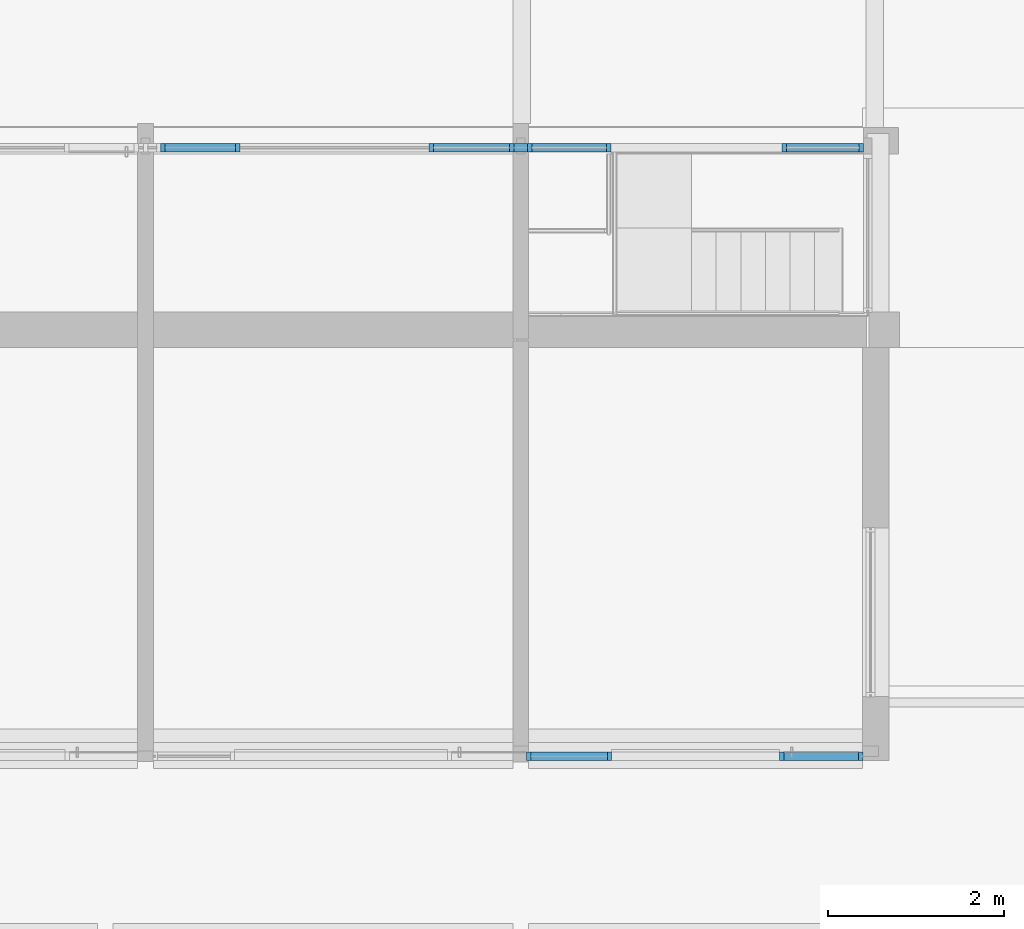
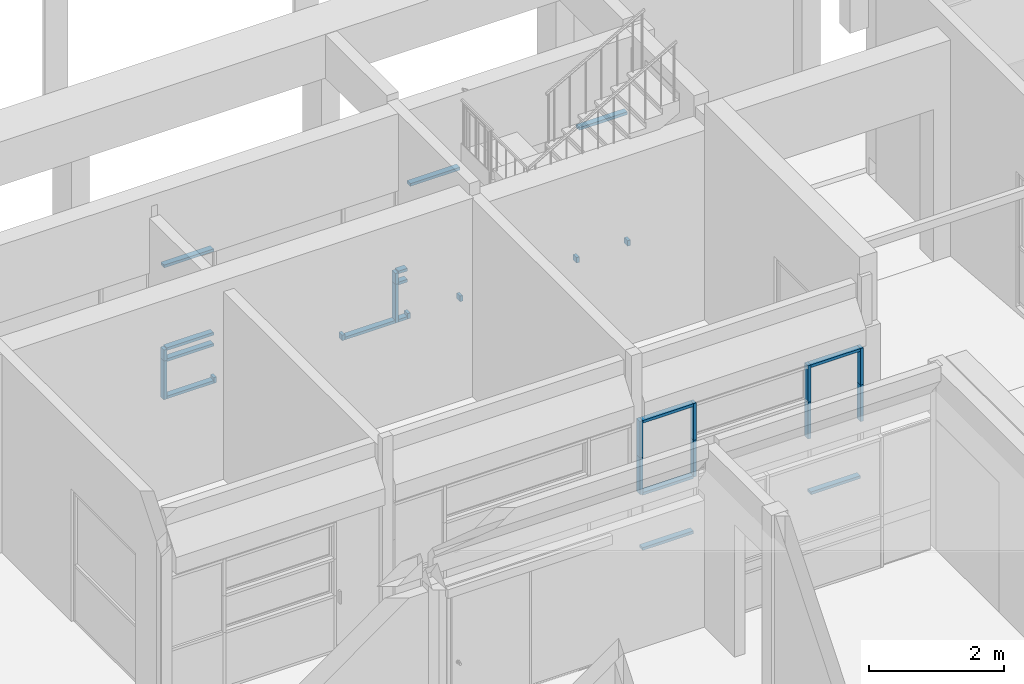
# One storey, part 21 of 117: 33 members, 3 elements without a shape of their own.
"""IFC4 building model written with IfcOpenShell, lengths in metres."""

from ifc_helpers import new_model, entity, si_unit, converted_unit, derived_unit, direction, frame, origin, place, context, subcontext, project, spatial, indexed_curve, outline, extrude, source, transform, mapped, material, type_object, type_shapes, element, aggregate, save


model = new_model("IFC4")

# Units and contexts
model_context = context("Model", 3, precision=1e-05, world=origin(), true_north=direction((6.123031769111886e-17, 1.0)))
body_context = subcontext(model_context, "Body", "Model", "MODEL_VIEW")
ifc_project = project(units=[si_unit("LENGTHUNIT", "METRE"), si_unit("AREAUNIT", "SQUARE_METRE"), si_unit("VOLUMEUNIT", "CUBIC_METRE"), converted_unit("PLANEANGLEUNIT", "DEGREE", entity("IfcRatioMeasure", 0.017453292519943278), si_unit("PLANEANGLEUNIT", "RADIAN"), dimensions=[0, 0, 0, 0, 0, 0, 0]), si_unit("MASSUNIT", "GRAM", prefix="KILO"), derived_unit("MASSDENSITYUNIT", [(si_unit("MASSUNIT", "GRAM", prefix="KILO"), 1), (si_unit("LENGTHUNIT", "METRE"), -3)]), derived_unit("MOMENTOFINERTIAUNIT", [(si_unit("LENGTHUNIT", "METRE"), 4)]), si_unit("TIMEUNIT", "SECOND"), si_unit("FREQUENCYUNIT", "HERTZ"), si_unit("THERMODYNAMICTEMPERATUREUNIT", "DEGREE_CELSIUS"), derived_unit("THERMALTRANSMITTANCEUNIT", [(si_unit("MASSUNIT", "GRAM", prefix="KILO"), 1), (si_unit("THERMODYNAMICTEMPERATUREUNIT", "KELVIN"), -1), (si_unit("TIMEUNIT", "SECOND"), -3)]), derived_unit("VOLUMETRICFLOWRATEUNIT", [(si_unit("LENGTHUNIT", "METRE"), 3), (si_unit("TIMEUNIT", "SECOND"), -1)]), derived_unit("MASSFLOWRATEUNIT", [(si_unit("MASSUNIT", "GRAM", prefix="KILO"), 1), (si_unit("TIMEUNIT", "SECOND"), -1)]), derived_unit("ROTATIONALFREQUENCYUNIT", [(si_unit("TIMEUNIT", "SECOND"), -1)]), si_unit("ELECTRICCURRENTUNIT", "AMPERE"), si_unit("ELECTRICVOLTAGEUNIT", "VOLT"), si_unit("POWERUNIT", "WATT"), si_unit("FORCEUNIT", "NEWTON", prefix="KILO"), si_unit("ILLUMINANCEUNIT", "LUX"), si_unit("LUMINOUSFLUXUNIT", "LUMEN"), si_unit("LUMINOUSINTENSITYUNIT", "CANDELA"), derived_unit("USERDEFINED", [(si_unit("MASSUNIT", "GRAM", prefix="KILO"), -1), (si_unit("LENGTHUNIT", "METRE"), -2), (si_unit("TIMEUNIT", "SECOND"), 3), (si_unit("LUMINOUSFLUXUNIT", "LUMEN"), 1)]), derived_unit("SOUNDPOWERUNIT", [(si_unit("MASSUNIT", "GRAM", prefix="KILO"), 1), (si_unit("LENGTHUNIT", "METRE"), 2), (si_unit("TIMEUNIT", "SECOND"), -3)]), derived_unit("SOUNDPRESSUREUNIT", [(si_unit("MASSUNIT", "GRAM", prefix="KILO"), 1), (si_unit("LENGTHUNIT", "METRE"), -1), (si_unit("TIMEUNIT", "SECOND"), -2)]), derived_unit("LINEARVELOCITYUNIT", [(si_unit("LENGTHUNIT", "METRE"), 1), (si_unit("TIMEUNIT", "SECOND"), -1)]), si_unit("PRESSUREUNIT", "PASCAL"), derived_unit("USERDEFINED", [(si_unit("LENGTHUNIT", "METRE"), -2), (si_unit("MASSUNIT", "GRAM", prefix="KILO"), 1), (si_unit("TIMEUNIT", "SECOND"), -2)]), derived_unit("LINEARFORCEUNIT", [(si_unit("MASSUNIT", "GRAM", prefix="KILO"), 1), (si_unit("LENGTHUNIT", "METRE"), 1), (si_unit("TIMEUNIT", "SECOND"), -2), (si_unit("LENGTHUNIT", "METRE"), -1)]), derived_unit("PLANARFORCEUNIT", [(si_unit("MASSUNIT", "GRAM", prefix="KILO"), 1), (si_unit("LENGTHUNIT", "METRE"), 1), (si_unit("TIMEUNIT", "SECOND"), -2), (si_unit("LENGTHUNIT", "METRE"), -2)])], contexts=[model_context])

# Site, building, storey
site_placement = place(None, origin())
site = spatial("IfcSite", under=ifc_project, at=site_placement, Name="Superficie", CompositionType="ELEMENT")
building_placement = place(site_placement, origin())
building = spatial("IfcBuilding", under=site, at=building_placement, CompositionType="ELEMENT")
storey_placement = place(building_placement, origin())
storey = spatial("IfcBuildingStorey", under=building, at=storey_placement, Name="Nivel 0", CompositionType="ELEMENT", Elevation=0.0)

# Curtain wall, members
curtain_wall_type = type_object("IfcCurtainWallType", Name="Muro cortina:Muro cortina - simple", PredefinedType="NOTDEFINED")
curtain_wall_1_placement = place(storey_placement, origin())
curtain_wall_1 = element("IfcCurtainWall", 1, at=curtain_wall_1_placement, inside=storey, type_object=curtain_wall_type, Name="Muro cortina:Muro cortina - simple", ObjectType="Muro cortina:Muro cortina - simple", PredefinedType="NOTDEFINED")
ifc_material = material(Name="<Unnamed>")
member_type_1 = type_object("IfcMemberType", Name="Montante rectangular:Montante rectangular - 5 x 10 cm", PredefinedType="MULLION", material=ifc_material)
shared_shape_1 = source(origin(), body_context, "Body", "SweptSolid", [
    extrude(outline(indexed_curve([(-0.05, -0.025), (0.05, -0.025), (0.05, 0.025), (-0.05, 0.025), (-0.05, -0.025)], self_intersect=False)), frame((0.0, 0.0, -0.8749999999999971), z_axis=(0.0, 0.0, 1.0), x_axis=(0.0, -1.0, 0.0)), (0.0, 0.0, 1.0), 0.874999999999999),
])
type_shapes(member_type_1, [shared_shape_1])
member_1_placement = place(curtain_wall_1_placement, frame((-6.3586665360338, 5.715829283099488, 1.0199999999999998), z_axis=(1.0, 0.0, 0.0), x_axis=(0.0, 0.0, 1.0)))
member_1 = element("IfcMember", 2, at=member_1_placement, type_object=member_type_1, material=ifc_material, Name="Montante rectangular:Montante rectangular - 5 x 10 cm", ObjectType="Montante rectangular:Montante rectangular - 5 x 10 cm", PredefinedType="MULLION", context=body_context, shape_type="MappedRepresentation", body=[
    mapped(shared_shape_1, transform((0.0, 0.0, 0.0), scale=1.0)),
])
member_2_placement = place(curtain_wall_1_placement, frame((-6.3586665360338, 5.715829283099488, 0.019999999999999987), z_axis=(1.0, 0.0, 0.0), x_axis=(0.0, 0.0, 1.0)))
member_2 = element("IfcMember", 3, at=member_2_placement, type_object=member_type_1, material=ifc_material, Name="Montante rectangular:Montante rectangular - 5 x 10 cm", ObjectType="Montante rectangular:Montante rectangular - 5 x 10 cm", PredefinedType="MULLION", context=body_context, shape_type="MappedRepresentation", body=[
    mapped(shared_shape_1, transform((0.0, 0.0, 0.0), scale=1.0)),
])
member_type_2 = type_object("IfcMemberType", Name="Montante rectangular:Montante rectangular - 5 x 10 cm", PredefinedType="MULLION", material=ifc_material)
shared_shape_2 = source(origin(), body_context, "Body", "SweptSolid", [
    extrude(outline(indexed_curve([(-0.05, -0.025), (0.05, -0.025), (0.05, 0.025), (-0.05, 0.025), (-0.05, -0.025)], self_intersect=False)), frame((-0.025, 0.0, -0.8749999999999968), z_axis=(0.0, 0.0, 1.0), x_axis=(0.0, -1.0, 0.0)), (0.0, 0.0, 1.0), 0.8749999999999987),
])
type_shapes(member_type_2, [shared_shape_2])
member_3_placement = place(curtain_wall_1_placement, frame((-6.3586665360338, 5.715829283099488, 2.35), z_axis=(1.0, 0.0, 0.0), x_axis=(0.0, 0.0, 1.0)))
member_3 = element("IfcMember", 4, at=member_3_placement, type_object=member_type_2, material=ifc_material, Name="Montante rectangular:Montante rectangular - 5 x 10 cm", ObjectType="Montante rectangular:Montante rectangular - 5 x 10 cm", PredefinedType="MULLION", context=body_context, shape_type="MappedRepresentation", body=[
    mapped(shared_shape_2, transform((0.0, 0.0, 0.0), scale=1.0)),
])
member_type_3 = type_object("IfcMemberType", Name="Montante rectangular:Montante rectangular - 5 x 10 cm", PredefinedType="MULLION", material=ifc_material)
shared_shape_3 = source(origin(), body_context, "Body", "SweptSolid", [
    extrude(outline(indexed_curve([(-0.05, -0.025), (0.05, -0.025), (0.05, 0.025), (-0.05, 0.025), (-0.05, -0.025)], self_intersect=False)), frame((0.0, 0.0, -0.6649999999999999), z_axis=(0.0, 0.0, 1.0), x_axis=(0.0, -1.0, 0.0)), (0.0, 0.0, 1.0), 0.6649999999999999),
])
type_shapes(member_type_3, [shared_shape_3])
member_4_placement = place(curtain_wall_1_placement, frame((-4.373200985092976, 5.715829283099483, 1.02), z_axis=(0.0, 0.0, -1.0), x_axis=(1.0, 0.0, 0.0)))
member_4 = element("IfcMember", 5, at=member_4_placement, type_object=member_type_3, material=ifc_material, Name="Montante rectangular:Montante rectangular - 5 x 10 cm", ObjectType="Montante rectangular:Montante rectangular - 5 x 10 cm", PredefinedType="MULLION", context=body_context, shape_type="MappedRepresentation", body=[
    mapped(shared_shape_3, transform((0.0, 0.0, 0.0), scale=1.0)),
])
member_5_placement = place(curtain_wall_1_placement, frame((-6.3336665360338, 5.715829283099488, 1.0199999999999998), z_axis=(0.0, 0.0, -1.0), x_axis=(1.0, 0.0, 0.0)))
member_5 = element("IfcMember", 6, at=member_5_placement, type_object=member_type_3, material=ifc_material, Name="Montante rectangular:Montante rectangular - 5 x 10 cm", ObjectType="Montante rectangular:Montante rectangular - 5 x 10 cm", PredefinedType="MULLION", context=body_context, shape_type="MappedRepresentation", body=[
    mapped(shared_shape_3, transform((0.0, 0.0, 0.0), scale=1.0)),
])
member_type_4 = type_object("IfcMemberType", Name="Montante rectangular:Montante rectangular - 5 x 10 cm", PredefinedType="MULLION", material=ifc_material)
shared_shape_4 = source(origin(), body_context, "Body", "SweptSolid", [
    extrude(outline(indexed_curve([(-0.05, -0.025), (0.05, -0.025), (0.05, 0.025), (-0.05, 0.025), (-0.05, -0.025)], self_intersect=False)), frame((0.0, 0.0, -0.6649999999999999), z_axis=(0.0, 0.0, 1.0), x_axis=(0.0, -1.0, 0.0)), (0.0, 0.0, 1.0), 0.6649999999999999),
])
type_shapes(member_type_4, [shared_shape_4])
member_6_placement = place(curtain_wall_1_placement, frame((-4.373200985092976, 5.715829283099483, 1.685), z_axis=(0.0, 0.0, -1.0), x_axis=(1.0, 0.0, 0.0)))
member_6 = element("IfcMember", 7, at=member_6_placement, type_object=member_type_4, material=ifc_material, Name="Montante rectangular:Montante rectangular - 5 x 10 cm", ObjectType="Montante rectangular:Montante rectangular - 5 x 10 cm", PredefinedType="MULLION", context=body_context, shape_type="MappedRepresentation", body=[
    mapped(shared_shape_4, transform((0.0, 0.0, 0.0), scale=1.0)),
])
member_7_placement = place(curtain_wall_1_placement, frame((-6.3336665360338, 5.715829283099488, 1.685), z_axis=(0.0, 0.0, -1.0), x_axis=(1.0, 0.0, 0.0)))
member_7 = element("IfcMember", 8, at=member_7_placement, type_object=member_type_4, material=ifc_material, Name="Montante rectangular:Montante rectangular - 5 x 10 cm", ObjectType="Montante rectangular:Montante rectangular - 5 x 10 cm", PredefinedType="MULLION", context=body_context, shape_type="MappedRepresentation", body=[
    mapped(shared_shape_4, transform((0.0, 0.0, 0.0), scale=1.0)),
])
member_type_5 = type_object("IfcMemberType", Name="Montante rectangular:Montante rectangular - 5 x 10 cm", PredefinedType="MULLION", material=ifc_material)
shared_shape_5 = source(origin(), body_context, "Body", "SweptSolid", [
    extrude(outline(indexed_curve([(-0.05, -0.025), (0.05, -0.025), (0.05, 0.025), (-0.05, 0.025), (-0.05, -0.025)], self_intersect=False)), frame((-0.025, 0.0, -0.8500000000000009), z_axis=(0.0, 0.0, 1.0), x_axis=(0.0, -1.0, 0.0)), (0.0, 0.0, 1.0), 0.849999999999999),
])
type_shapes(member_type_5, [shared_shape_5])
member_8_placement = place(curtain_wall_1_placement, frame((-3.4982009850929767, 5.715829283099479, 2.35), z_axis=(1.0, 0.0, 0.0), x_axis=(0.0, 0.0, 1.0)))
member_8 = element("IfcMember", 9, at=member_8_placement, type_object=member_type_5, material=ifc_material, Name="Montante rectangular:Montante rectangular - 5 x 10 cm", ObjectType="Montante rectangular:Montante rectangular - 5 x 10 cm", PredefinedType="MULLION", context=body_context, shape_type="MappedRepresentation", body=[
    mapped(shared_shape_5, transform((0.0, 0.0, 0.0), scale=1.0)),
])

curtain_wall_2_placement = place(storey_placement, origin())
curtain_wall_2 = element("IfcCurtainWall", 10, at=curtain_wall_2_placement, inside=storey, type_object=curtain_wall_type, Name="Muro cortina:Muro cortina - simple", ObjectType="Muro cortina:Muro cortina - simple", PredefinedType="NOTDEFINED")
member_9_placement = place(curtain_wall_2_placement, frame((-11.437388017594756, 12.640829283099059, 2.44), z_axis=(-1.0, 0.0, 0.0), x_axis=(0.0, 0.0, 1.0)))
member_9 = element("IfcMember", 11, at=member_9_placement, type_object=member_type_5, material=ifc_material, Name="Montante rectangular:Montante rectangular - 5 x 10 cm", ObjectType="Montante rectangular:Montante rectangular - 5 x 10 cm", PredefinedType="MULLION", context=body_context, shape_type="MappedRepresentation", body=[
    mapped(shared_shape_5, transform((0.0, 0.0, 0.0), scale=1.0)),
])
member_10_placement = place(curtain_wall_2_placement, frame((-7.217388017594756, 12.640829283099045, 2.44), z_axis=(-1.0, 0.0, 0.0), x_axis=(0.0, 0.0, 1.0)))
member_10 = element("IfcMember", 12, at=member_10_placement, type_object=member_type_5, material=ifc_material, Name="Montante rectangular:Montante rectangular - 5 x 10 cm", ObjectType="Montante rectangular:Montante rectangular - 5 x 10 cm", PredefinedType="MULLION", context=body_context, shape_type="MappedRepresentation", body=[
    mapped(shared_shape_5, transform((0.0, 0.0, 0.0), scale=1.0)),
])

# Member
member_type_6 = type_object("IfcMemberType", Name="Montante rectangular:Montante rectangular - 5 x 10 cm", PredefinedType="MULLION", material=ifc_material)
shared_shape_6 = source(origin(), body_context, "Body", "SweptSolid", [
    extrude(outline(indexed_curve([(-0.05, -0.025), (0.05, -0.025), (0.05, 0.025), (-0.05, 0.025), (-0.05, -0.025)], self_intersect=False)), frame((0.0, 0.0, -0.8500000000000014), z_axis=(0.0, 0.0, 1.0), x_axis=(0.0, -1.0, 0.0)), (0.0, 0.0, 1.0), 0.849999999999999),
])
type_shapes(member_type_6, [shared_shape_6])
member_11_placement = place(curtain_wall_1_placement, frame((-3.4982009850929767, 5.715829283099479, 0.019999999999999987), z_axis=(1.0, 0.0, 0.0), x_axis=(0.0, 0.0, 1.0)))
member_11 = element("IfcMember", 13, at=member_11_placement, type_object=member_type_6, material=ifc_material, Name="Montante rectangular:Montante rectangular - 5 x 10 cm", ObjectType="Montante rectangular:Montante rectangular - 5 x 10 cm", PredefinedType="MULLION", context=body_context, shape_type="MappedRepresentation", body=[
    mapped(shared_shape_6, transform((0.0, 0.0, 0.0), scale=1.0)),
])

# Curtain wall, member
curtain_wall_3_placement = place(storey_placement, origin())
curtain_wall_3 = element("IfcCurtainWall", 14, at=curtain_wall_3_placement, inside=storey, type_object=curtain_wall_type, Name="Muro cortina:Muro cortina - simple", ObjectType="Muro cortina:Muro cortina - simple", PredefinedType="NOTDEFINED")
member_type_7 = type_object("IfcMemberType", Name="Montante rectangular:Montante rectangular - 5 x 10 cm", PredefinedType="MULLION", material=ifc_material)
shared_shape_7 = source(origin(), body_context, "Body", "SweptSolid", [
    extrude(outline(indexed_curve([(-0.05, -0.025), (0.05, -0.025), (0.05, 0.025), (-0.05, 0.025), (-0.05, -0.025)], self_intersect=False)), frame((0.0, 0.0, -0.6649999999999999), z_axis=(0.0, 0.0, 1.0), x_axis=(0.0, -1.0, 0.0)), (0.0, 0.0, 1.0), 0.6649999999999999),
])
type_shapes(member_type_7, [shared_shape_7])
member_12_placement = place(curtain_wall_3_placement, frame((-7.2536665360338, 5.715829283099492, 1.0200000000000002), z_axis=(0.0, 0.0, -1.0), x_axis=(1.0, 0.0, 0.0)))
member_12 = element("IfcMember", 15, at=member_12_placement, type_object=member_type_7, material=ifc_material, Name="Montante rectangular:Montante rectangular - 5 x 10 cm", ObjectType="Montante rectangular:Montante rectangular - 5 x 10 cm", PredefinedType="MULLION", context=body_context, shape_type="MappedRepresentation", body=[
    mapped(shared_shape_7, transform((0.0, 0.0, 0.0), scale=1.0)),
])

# Member
member_13_placement = place(curtain_wall_1_placement, frame((-3.473200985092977, 5.715829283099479, 1.0200000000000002), z_axis=(0.0, 0.0, -1.0), x_axis=(1.0, 0.0, 0.0)))
member_13 = element("IfcMember", 16, at=member_13_placement, type_object=member_type_7, material=ifc_material, Name="Montante rectangular:Montante rectangular - 5 x 10 cm", ObjectType="Montante rectangular:Montante rectangular - 5 x 10 cm", PredefinedType="MULLION", context=body_context, shape_type="MappedRepresentation", body=[
    mapped(shared_shape_7, transform((0.0, 0.0, 0.0), scale=1.0)),
])

member_type_8 = type_object("IfcMemberType", Name="Montante rectangular:Montante rectangular - 5 x 10 cm", PredefinedType="MULLION", material=ifc_material)
shared_shape_8 = source(origin(), body_context, "Body", "SweptSolid", [
    extrude(outline(indexed_curve([(-0.05, -0.025), (0.05, -0.025), (0.05, 0.025), (-0.05, 0.025), (-0.05, -0.025)], self_intersect=False)), frame((0.0, 0.0, -0.6649999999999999), z_axis=(0.0, 0.0, 1.0), x_axis=(0.0, -1.0, 0.0)), (0.0, 0.0, 1.0), 0.6649999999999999),
])
type_shapes(member_type_8, [shared_shape_8])
member_14_placement = place(curtain_wall_3_placement, frame((-7.2536665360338, 5.715829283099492, 1.685), z_axis=(0.0, 0.0, -1.0), x_axis=(1.0, 0.0, 0.0)))
member_14 = element("IfcMember", 17, at=member_14_placement, type_object=member_type_8, material=ifc_material, Name="Montante rectangular:Montante rectangular - 5 x 10 cm", ObjectType="Montante rectangular:Montante rectangular - 5 x 10 cm", PredefinedType="MULLION", context=body_context, shape_type="MappedRepresentation", body=[
    mapped(shared_shape_8, transform((0.0, 0.0, 0.0), scale=1.0)),
])

aggregate(curtain_wall_3, [member_12, member_14])

member_15_placement = place(curtain_wall_1_placement, frame((-3.473200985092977, 5.715829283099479, 1.685), z_axis=(0.0, 0.0, -1.0), x_axis=(1.0, 0.0, 0.0)))
member_15 = element("IfcMember", 18, at=member_15_placement, type_object=member_type_8, material=ifc_material, Name="Montante rectangular:Montante rectangular - 5 x 10 cm", ObjectType="Montante rectangular:Montante rectangular - 5 x 10 cm", PredefinedType="MULLION", context=body_context, shape_type="MappedRepresentation", body=[
    mapped(shared_shape_8, transform((0.0, 0.0, 0.0), scale=1.0)),
])

aggregate(curtain_wall_1, [member_8, member_11, member_13, member_4, member_15, member_6, member_1, member_2, member_3, member_7, member_5])

member_type_9 = type_object("IfcMemberType", Name="Montante rectangular:Montante rectangular - 5 x 10 cm", PredefinedType="MULLION", material=ifc_material)
shared_shape_9 = source(origin(), body_context, "Body", "SweptSolid", [
    extrude(outline(indexed_curve([(-0.05, -0.025), (0.05, -0.025), (0.05, 0.025), (-0.05, 0.025), (-0.05, -0.025)], self_intersect=False)), frame((-0.025, 0.0, -0.8249999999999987), z_axis=(0.0, 0.0, 1.0), x_axis=(0.0, -1.0, 0.0)), (0.0, 0.0, 1.0), 0.824999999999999),
])
type_shapes(member_type_9, [shared_shape_9])
member_16_placement = place(curtain_wall_2_placement, frame((-4.3182009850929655, 12.640829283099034, 2.44), z_axis=(-1.0, 0.0, 0.0), x_axis=(0.0, 0.0, 1.0)))
member_16 = element("IfcMember", 19, at=member_16_placement, type_object=member_type_9, material=ifc_material, Name="Montante rectangular:Montante rectangular - 5 x 10 cm", ObjectType="Montante rectangular:Montante rectangular - 5 x 10 cm", PredefinedType="MULLION", context=body_context, shape_type="MappedRepresentation", body=[
    mapped(shared_shape_9, transform((0.0, 0.0, 0.0), scale=1.0)),
])

member_type_10 = type_object("IfcMemberType", Name="Montante rectangular:Montante rectangular - 5 x 10 cm", PredefinedType="MULLION", material=ifc_material)
shared_shape_10 = source(origin(), body_context, "Body", "SweptSolid", [
    extrude(outline(indexed_curve([(-0.05, -0.025), (0.05, -0.025), (0.05, 0.025), (-0.05, 0.025), (-0.05, -0.025)], self_intersect=False)), frame((0.0, 0.0, -0.19999999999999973), z_axis=(0.0, 0.0, 1.0), x_axis=(0.0, -1.0, 0.0)), (0.0, 0.0, 1.0), 0.19999999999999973),
])
type_shapes(member_type_10, [shared_shape_10])
member_17_placement = place(curtain_wall_2_placement, frame((-7.447388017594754, 12.640829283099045, 0.7), z_axis=(0.0, 0.0, -1.0), x_axis=(-1.0, 0.0, 0.0)))
member_17 = element("IfcMember", 20, at=member_17_placement, type_object=member_type_10, material=ifc_material, Name="Montante rectangular:Montante rectangular - 5 x 10 cm", ObjectType="Montante rectangular:Montante rectangular - 5 x 10 cm", PredefinedType="MULLION", context=body_context, shape_type="MappedRepresentation", body=[
    mapped(shared_shape_10, transform((0.0, 0.0, 0.0), scale=1.0)),
])

member_18_placement = place(curtain_wall_2_placement, frame((-11.417388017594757, 12.640829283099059, 0.7), z_axis=(0.0, 0.0, -1.0), x_axis=(-1.0, 0.0, 0.0)))
member_18 = element("IfcMember", 21, at=member_18_placement, type_object=member_type_10, material=ifc_material, Name="Montante rectangular:Montante rectangular - 5 x 10 cm", ObjectType="Montante rectangular:Montante rectangular - 5 x 10 cm", PredefinedType="MULLION", context=body_context, shape_type="MappedRepresentation", body=[
    mapped(shared_shape_10, transform((0.0, 0.0, 0.0), scale=1.0)),
])

member_type_11 = type_object("IfcMemberType", Name="Montante rectangular:Montante rectangular - 5 x 10 cm", PredefinedType="MULLION", material=ifc_material)
shared_shape_11 = source(origin(), body_context, "Body", "SweptSolid", [
    extrude(outline(indexed_curve([(-0.05, -0.025), (0.05, -0.025), (0.05, 0.025), (-0.05, 0.025), (-0.05, -0.025)], self_intersect=False)), frame((-0.025, 0.0, -0.15500000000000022), z_axis=(0.0, 0.0, 1.0), x_axis=(0.0, -1.0, 0.0)), (0.0, 0.0, 1.0), 0.15500000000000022),
])
type_shapes(member_type_11, [shared_shape_11])
member_19_placement = place(curtain_wall_2_placement, frame((-7.267388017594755, 12.640829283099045, 0.0), z_axis=(1.0, 0.0, 0.0), x_axis=(0.0, 0.0, -1.0)))
member_19 = element("IfcMember", 22, at=member_19_placement, type_object=member_type_11, material=ifc_material, Name="Montante rectangular:Montante rectangular - 5 x 10 cm", ObjectType="Montante rectangular:Montante rectangular - 5 x 10 cm", PredefinedType="MULLION", context=body_context, shape_type="MappedRepresentation", body=[
    mapped(shared_shape_11, transform((0.0, 0.0, 0.0), scale=1.0)),
])

member_type_12 = type_object("IfcMemberType", Name="Montante rectangular:Montante rectangular - 5 x 10 cm", PredefinedType="MULLION", material=ifc_material)
shared_shape_12 = source(origin(), body_context, "Body", "SweptSolid", [
    extrude(outline(indexed_curve([(-0.05, -0.025), (0.05, -0.025), (0.05, 0.025), (-0.05, 0.025), (-0.05, -0.025)], self_intersect=False)), frame((-0.025, 0.0, -0.8650000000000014), z_axis=(0.0, 0.0, 1.0), x_axis=(0.0, -1.0, 0.0)), (0.0, 0.0, 1.0), 0.8650000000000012),
])
type_shapes(member_type_12, [shared_shape_12])
member_20_placement = place(curtain_wall_2_placement, frame((-7.472388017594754, 12.640829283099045, 0.0), z_axis=(1.0, 0.0, 0.0), x_axis=(0.0, 0.0, -1.0)))
member_20 = element("IfcMember", 23, at=member_20_placement, type_object=member_type_12, material=ifc_material, Name="Montante rectangular:Montante rectangular - 5 x 10 cm", ObjectType="Montante rectangular:Montante rectangular - 5 x 10 cm", PredefinedType="MULLION", context=body_context, shape_type="MappedRepresentation", body=[
    mapped(shared_shape_12, transform((0.0, 0.0, 0.0), scale=1.0)),
])

member_type_13 = type_object("IfcMemberType", Name="Montante rectangular:Montante rectangular - 5 x 10 cm", PredefinedType="MULLION", material=ifc_material)
shared_shape_13 = source(origin(), body_context, "Body", "SweptSolid", [
    extrude(outline(indexed_curve([(-0.05, -0.025), (0.05, -0.025), (0.05, 0.025), (-0.05, 0.025), (-0.05, -0.025)], self_intersect=False)), frame((0.0, 0.0, -0.7), z_axis=(0.0, 0.0, 1.0), x_axis=(0.0, -1.0, 0.0)), (0.0, 0.0, 1.0), 0.7),
])
type_shapes(member_type_13, [shared_shape_13])
member_21_placement = place(curtain_wall_2_placement, frame((-7.447388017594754, 12.640829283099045, 0.0), z_axis=(0.0, 0.0, -1.0), x_axis=(-1.0, 0.0, 0.0)))
member_21 = element("IfcMember", 24, at=member_21_placement, type_object=member_type_13, material=ifc_material, Name="Montante rectangular:Montante rectangular - 5 x 10 cm", ObjectType="Montante rectangular:Montante rectangular - 5 x 10 cm", PredefinedType="MULLION", context=body_context, shape_type="MappedRepresentation", body=[
    mapped(shared_shape_13, transform((0.0, 0.0, 0.0), scale=1.0)),
])

member_22_placement = place(curtain_wall_2_placement, frame((-11.417388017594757, 12.640829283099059, 0.0), z_axis=(0.0, 0.0, -1.0), x_axis=(-1.0, 0.0, 0.0)))
member_22 = element("IfcMember", 25, at=member_22_placement, type_object=member_type_13, material=ifc_material, Name="Montante rectangular:Montante rectangular - 5 x 10 cm", ObjectType="Montante rectangular:Montante rectangular - 5 x 10 cm", PredefinedType="MULLION", context=body_context, shape_type="MappedRepresentation", body=[
    mapped(shared_shape_13, transform((0.0, 0.0, 0.0), scale=1.0)),
])

member_type_14 = type_object("IfcMemberType", Name="Montante rectangular:Montante rectangular - 5 x 10 cm", PredefinedType="MULLION", material=ifc_material)
shared_shape_14 = source(origin(), body_context, "Body", "SweptSolid", [
    extrude(outline(indexed_curve([(-0.05, -0.025), (0.05, -0.025), (0.05, 0.025), (-0.05, 0.025), (-0.05, -0.025)], self_intersect=False)), frame((0.0, 0.0, -0.15500000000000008), z_axis=(0.0, 0.0, 1.0), x_axis=(0.0, -1.0, 0.0)), (0.0, 0.0, 1.0), 0.15500000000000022),
])
type_shapes(member_type_14, [shared_shape_14])
member_23_placement = place(curtain_wall_2_placement, frame((-7.422388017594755, 12.640829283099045, 0.8999999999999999), z_axis=(-1.0, 0.0, 0.0), x_axis=(0.0, 0.0, 1.0)))
member_23 = element("IfcMember", 26, at=member_23_placement, type_object=member_type_14, material=ifc_material, Name="Montante rectangular:Montante rectangular - 5 x 10 cm", ObjectType="Montante rectangular:Montante rectangular - 5 x 10 cm", PredefinedType="MULLION", context=body_context, shape_type="MappedRepresentation", body=[
    mapped(shared_shape_14, transform((0.0, 0.0, 0.0), scale=1.0)),
])

member_24_placement = place(curtain_wall_2_placement, frame((-7.422388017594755, 12.640829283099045, 0.7), z_axis=(-1.0, 0.0, 0.0), x_axis=(0.0, 0.0, 1.0)))
member_24 = element("IfcMember", 27, at=member_24_placement, type_object=member_type_14, material=ifc_material, Name="Montante rectangular:Montante rectangular - 5 x 10 cm", ObjectType="Montante rectangular:Montante rectangular - 5 x 10 cm", PredefinedType="MULLION", context=body_context, shape_type="MappedRepresentation", body=[
    mapped(shared_shape_14, transform((0.0, 0.0, 0.0), scale=1.0)),
])

member_type_15 = type_object("IfcMemberType", Name="Montante rectangular:Montante rectangular - 5 x 10 cm", PredefinedType="MULLION", material=ifc_material)
shared_shape_15 = source(origin(), body_context, "Body", "SweptSolid", [
    extrude(outline(indexed_curve([(-0.05, -0.025), (0.05, -0.025), (0.05, 0.025), (-0.05, 0.025), (-0.05, -0.025)], self_intersect=False)), frame((-0.025, 0.0, -0.8049999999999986), z_axis=(0.0, 0.0, 1.0), x_axis=(0.0, -1.0, 0.0)), (0.0, 0.0, 1.0), 0.8049999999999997),
])
type_shapes(member_type_15, [shared_shape_15])
member_25_placement = place(curtain_wall_2_placement, frame((-10.587388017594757, 12.640829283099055, 0.0), z_axis=(1.0, 0.0, 0.0), x_axis=(0.0, 0.0, -1.0)))
member_25 = element("IfcMember", 28, at=member_25_placement, type_object=member_type_15, material=ifc_material, Name="Montante rectangular:Montante rectangular - 5 x 10 cm", ObjectType="Montante rectangular:Montante rectangular - 5 x 10 cm", PredefinedType="MULLION", context=body_context, shape_type="MappedRepresentation", body=[
    mapped(shared_shape_15, transform((0.0, 0.0, 0.0), scale=1.0)),
])

member_type_16 = type_object("IfcMemberType", Name="Montante rectangular:Montante rectangular - 5 x 10 cm", PredefinedType="MULLION", material=ifc_material)
shared_shape_16 = source(origin(), body_context, "Body", "SweptSolid", [
    extrude(outline(indexed_curve([(-0.05, -0.025), (0.05, -0.025), (0.05, 0.025), (-0.05, 0.025), (-0.05, -0.025)], self_intersect=False)), frame((0.0, 0.0, -0.8050000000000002), z_axis=(0.0, 0.0, 1.0), x_axis=(0.0, -1.0, 0.0)), (0.0, 0.0, 1.0), 0.8049999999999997),
])
type_shapes(member_type_16, [shared_shape_16])
member_26_placement = place(curtain_wall_2_placement, frame((-11.392388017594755, 12.640829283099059, 0.8999999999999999), z_axis=(-1.0, 0.0, 0.0), x_axis=(0.0, 0.0, 1.0)))
member_26 = element("IfcMember", 29, at=member_26_placement, type_object=member_type_16, material=ifc_material, Name="Montante rectangular:Montante rectangular - 5 x 10 cm", ObjectType="Montante rectangular:Montante rectangular - 5 x 10 cm", PredefinedType="MULLION", context=body_context, shape_type="MappedRepresentation", body=[
    mapped(shared_shape_16, transform((0.0, 0.0, 0.0), scale=1.0)),
])

member_27_placement = place(curtain_wall_2_placement, frame((-11.392388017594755, 12.640829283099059, 0.7), z_axis=(-1.0, 0.0, 0.0), x_axis=(0.0, 0.0, 1.0)))
member_27 = element("IfcMember", 30, at=member_27_placement, type_object=member_type_16, material=ifc_material, Name="Montante rectangular:Montante rectangular - 5 x 10 cm", ObjectType="Montante rectangular:Montante rectangular - 5 x 10 cm", PredefinedType="MULLION", context=body_context, shape_type="MappedRepresentation", body=[
    mapped(shared_shape_16, transform((0.0, 0.0, 0.0), scale=1.0)),
])

member_type_17 = type_object("IfcMemberType", Name="Montante rectangular:Montante rectangular - 5 x 10 cm", PredefinedType="MULLION", material=ifc_material)
shared_shape_17 = source(origin(), body_context, "Body", "SweptSolid", [
    extrude(outline(indexed_curve([(-0.05, -0.025), (0.05, -0.025), (0.05, 0.025), (-0.05, 0.025), (-0.05, -0.025)], self_intersect=False)), frame((-0.025, 0.0, -0.10097316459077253), z_axis=(0.0, 0.0, 1.0), x_axis=(0.0, -1.0, 0.0)), (0.0, 0.0, 1.0), 0.10097316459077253),
])
type_shapes(member_type_17, [shared_shape_17])
member_28_placement = place(curtain_wall_2_placement, frame((-3.443200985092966, 12.640829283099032, 0.10097316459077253)))
member_28 = element("IfcMember", 31, at=member_28_placement, type_object=member_type_17, material=ifc_material, Name="Montante rectangular:Montante rectangular - 5 x 10 cm", ObjectType="Montante rectangular:Montante rectangular - 5 x 10 cm", PredefinedType="MULLION", context=body_context, shape_type="MappedRepresentation", body=[
    mapped(shared_shape_17, transform((0.0, 0.0, 0.0), scale=1.0)),
])

member_type_18 = type_object("IfcMemberType", Name="Montante rectangular:Montante rectangular - 5 x 10 cm", PredefinedType="MULLION", material=ifc_material)
shared_shape_18 = source(origin(), body_context, "Body", "SweptSolid", [
    extrude(outline(indexed_curve([(-0.05, -0.025), (0.05, -0.025), (0.05, 0.025), (-0.05, 0.025), (-0.05, -0.025)], self_intersect=False)), frame((0.0, 0.0, -0.10097316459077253), z_axis=(0.0, 0.0, 1.0), x_axis=(0.0, -1.0, 0.0)), (0.0, 0.0, 1.0), 0.10097316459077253),
])
type_shapes(member_type_18, [shared_shape_18])
member_29_placement = place(curtain_wall_2_placement, frame((-10.562388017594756, 12.640829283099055, 0.0), z_axis=(0.0, 0.0, -1.0), x_axis=(-1.0, 0.0, 0.0)))
member_29 = element("IfcMember", 32, at=member_29_placement, type_object=member_type_18, material=ifc_material, Name="Montante rectangular:Montante rectangular - 5 x 10 cm", ObjectType="Montante rectangular:Montante rectangular - 5 x 10 cm", PredefinedType="MULLION", context=body_context, shape_type="MappedRepresentation", body=[
    mapped(shared_shape_18, transform((0.0, 0.0, 0.0), scale=1.0)),
])

member_30_placement = place(curtain_wall_2_placement, frame((-8.362388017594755, 12.640829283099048, 0.0), z_axis=(0.0, 0.0, -1.0), x_axis=(-1.0, 0.0, 0.0)))
member_30 = element("IfcMember", 33, at=member_30_placement, type_object=member_type_18, material=ifc_material, Name="Montante rectangular:Montante rectangular - 5 x 10 cm", ObjectType="Montante rectangular:Montante rectangular - 5 x 10 cm", PredefinedType="MULLION", context=body_context, shape_type="MappedRepresentation", body=[
    mapped(shared_shape_18, transform((0.0, 0.0, 0.0), scale=1.0)),
])

member_31_placement = place(curtain_wall_2_placement, frame((-7.242388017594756, 12.640829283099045, 0.0), z_axis=(0.0, 0.0, -1.0), x_axis=(-1.0, 0.0, 0.0)))
member_31 = element("IfcMember", 34, at=member_31_placement, type_object=member_type_18, material=ifc_material, Name="Montante rectangular:Montante rectangular - 5 x 10 cm", ObjectType="Montante rectangular:Montante rectangular - 5 x 10 cm", PredefinedType="MULLION", context=body_context, shape_type="MappedRepresentation", body=[
    mapped(shared_shape_18, transform((0.0, 0.0, 0.0), scale=1.0)),
])

member_32_placement = place(curtain_wall_2_placement, frame((-4.343200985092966, 12.640829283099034, 0.0), z_axis=(0.0, 0.0, -1.0), x_axis=(-1.0, 0.0, 0.0)))
member_32 = element("IfcMember", 35, at=member_32_placement, type_object=member_type_18, material=ifc_material, Name="Montante rectangular:Montante rectangular - 5 x 10 cm", ObjectType="Montante rectangular:Montante rectangular - 5 x 10 cm", PredefinedType="MULLION", context=body_context, shape_type="MappedRepresentation", body=[
    mapped(shared_shape_18, transform((0.0, 0.0, 0.0), scale=1.0)),
])

member_33_placement = place(curtain_wall_2_placement, frame((-6.342388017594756, 12.640829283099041, 0.0), z_axis=(0.0, 0.0, -1.0), x_axis=(-1.0, 0.0, 0.0)))
member_33 = element("IfcMember", 36, at=member_33_placement, type_object=member_type_18, material=ifc_material, Name="Montante rectangular:Montante rectangular - 5 x 10 cm", ObjectType="Montante rectangular:Montante rectangular - 5 x 10 cm", PredefinedType="MULLION", context=body_context, shape_type="MappedRepresentation", body=[
    mapped(shared_shape_18, transform((0.0, 0.0, 0.0), scale=1.0)),
])

aggregate(curtain_wall_2, [member_19, member_20, member_21, member_17, member_23, member_24, member_25, member_22, member_18, member_26, member_27, member_28, member_29, member_30, member_9, member_16, member_10, member_31, member_32, member_33])

save(model, "model.ifc")
